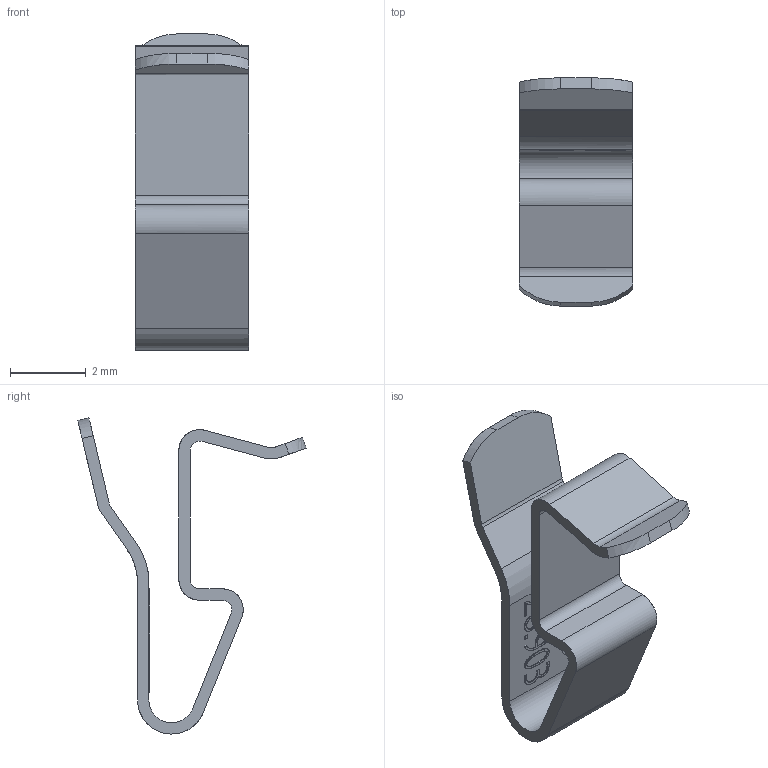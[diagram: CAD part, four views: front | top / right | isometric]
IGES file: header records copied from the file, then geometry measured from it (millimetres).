
Global section: file name: C:\coretechnologie2013\3D-in/01XY900Y06.igs; native system: CT CoreTechnologie 3D Evolution; preprocessor: 2006; author: assmuth; date: 1150413.104757; units: millimetre
Bounding box: 3 x 6.02 x 8.34 mm (x, y, z)
Surface area: 142.4 mm2 (no closed solid volume)
Topology: 0 solids, 0 shells, 129 faces, 648 edges, 648 vertices
Faces by surface type: bspline 129
